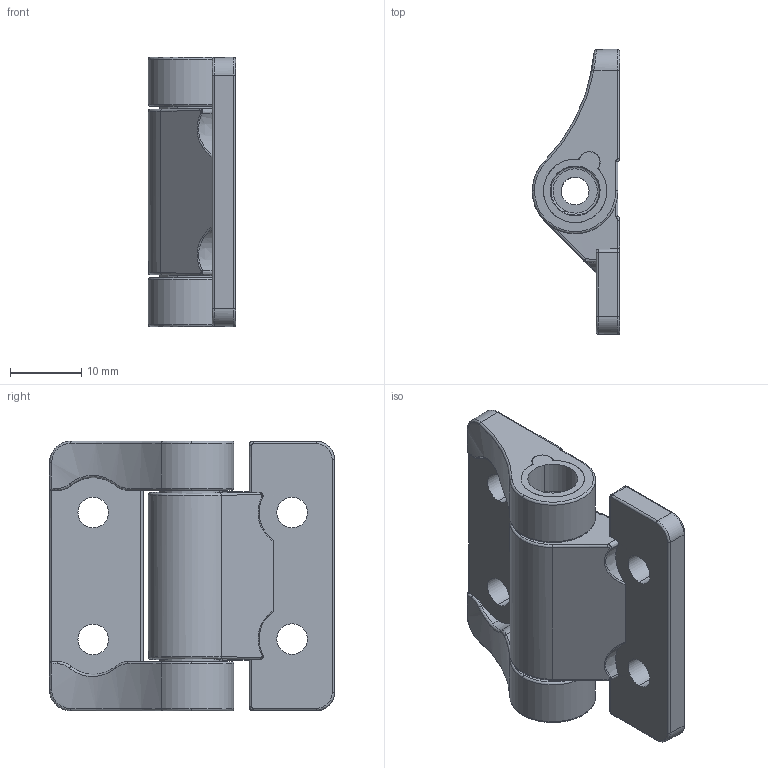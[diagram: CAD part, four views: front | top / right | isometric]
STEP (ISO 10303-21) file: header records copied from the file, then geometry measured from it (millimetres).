
FILE_DESCRIPTION (( 'STEP AP203' ), '1' );
FILE_NAME ('XG11-003-3.STEP', '2025-04-16T02:47:14', ( '微软用户' ), ( '微软中国' ), 'SwSTEP 2.0', 'SolidWorks 2024', '' );
FILE_SCHEMA (( 'CONFIG_CONTROL_DESIGN' ));
Length unit declared in the file: millimetre
Products named in the file (1): XG11-003-3
Bounding box: 12.24 x 39.99 x 37.8 mm (x, y, z)
Volume: 7605.4 mm3; surface area: 7016.9 mm2
Topology: 4 solids, 4 shells, 225 faces, 553 edges, 338 vertices
Faces by surface type: cylinder 101, plane 39, bspline 35, torus 26, cone 18, sphere 6
Entity records: 9217 total; most frequent: CARTESIAN_POINT 4006, ORIENTED_EDGE 1106, DIRECTION 1044, EDGE_CURVE 553, AXIS2_PLACEMENT_3D 429, VERTEX_POINT 338, EDGE_LOOP 245, CIRCLE 238
